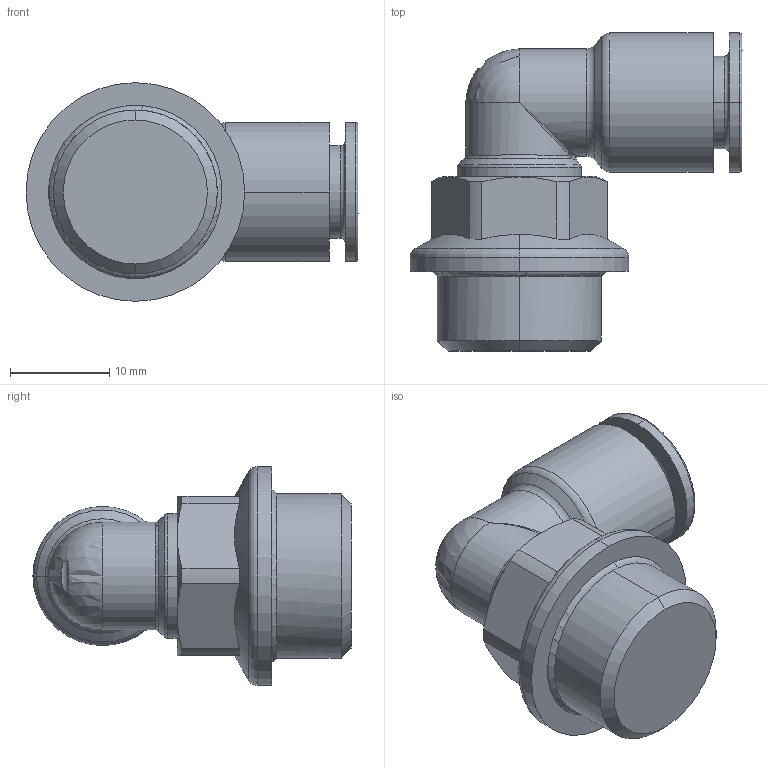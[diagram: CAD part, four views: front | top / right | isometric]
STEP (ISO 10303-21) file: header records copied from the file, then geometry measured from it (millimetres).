
FILE_DESCRIPTION (( 'STEP AP214' ), '1' );
FILE_NAME ('5411600019A.STEP', '2024-09-20T06:28:24', ( '' ), ( '' ), 'SwSTEP 2.0', 'SolidWorks 2020', '' );
FILE_SCHEMA (( 'AUTOMOTIVE_DESIGN' ));
Length unit declared in the file: millimetre
Products named in the file (1): 5411600019A
Bounding box: 33.4 x 32 x 22 mm (x, y, z)
Volume: 6763.4 mm3; surface area: 3454.4 mm2
Topology: 1 solids, 4 shells, 234 faces, 576 edges, 368 vertices
Faces by surface type: plane 105, bspline 60, cylinder 29, cone 20, torus 19, sphere 1
Entity records: 12343 total; most frequent: CARTESIAN_POINT 4684, ORIENTED_EDGE 1144, DIRECTION 886, EDGE_CURVE 572, VERTEX_POINT 368, VECTOR 316, LINE 316, AXIS2_PLACEMENT_3D 285
